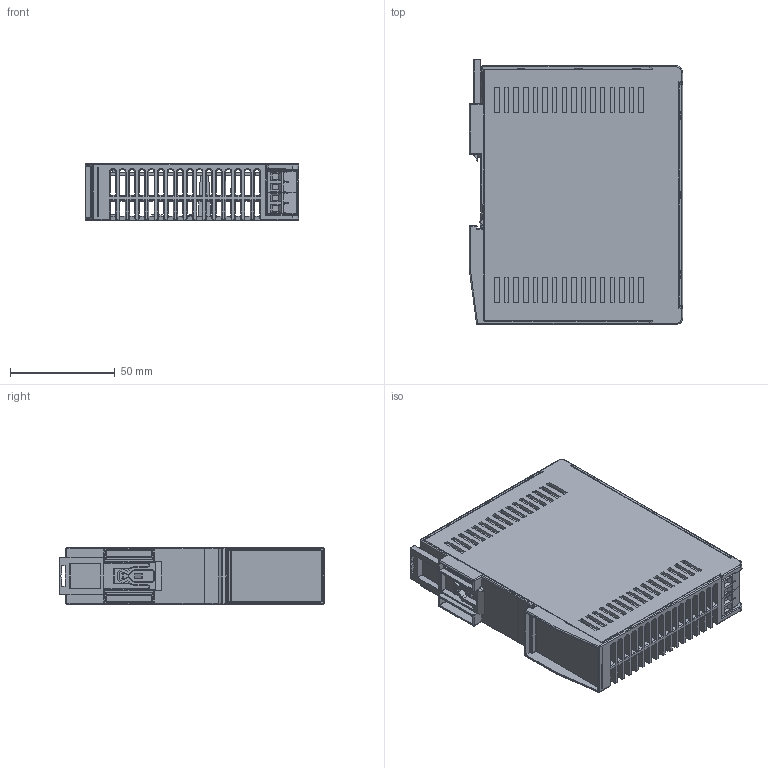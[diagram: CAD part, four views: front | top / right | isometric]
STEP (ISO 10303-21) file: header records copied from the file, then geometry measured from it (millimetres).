
FILE_DESCRIPTION (( 'STEP AP214' ), '1' );
FILE_NAME ('DPSL075W24V.STEP', '2026-04-08T11:39:34', ( '' ), ( '' ), 'SwSTEP 2.0', 'SolidWorks 2022', '' );
FILE_SCHEMA (( 'AUTOMOTIVE_DESIGN' ));
Length unit declared in the file: millimetre
Products named in the file (10): EE-PART.stp; CHASSIS_MODIFY_20191002.stp; 347_CLIP_LONG_20190322.stp; DPSL075W24V; PWB.stp; DPSL075W24V.stp; MB310-508M03Y.stp; MB310-508M02Y.stp; DRL_75W_COVER.stp; PWB-2.stp
Assembly tree (10 placements, depth 3):
  DPSL075W24V
    DPSL075W24V.stp
      CHASSIS_MODIFY_20191002.stp
      DRL_75W_COVER.stp
      MB310-508M03Y.stp
      MB310-508M02Y.stp  x2
      PWB.stp
      PWB-2.stp
      EE-PART.stp
      347_CLIP_LONG_20190322.stp
Bounding box: 102.04 x 126.62 x 27 mm (x, y, z)
Volume: 81747.4 mm3; surface area: 104420.1 mm2
Topology: 10 solids, 13 shells, 2562 faces, 6938 edges, 4357 vertices
Faces by surface type: plane 1425, cylinder 599, cone 219, torus 161, sphere 105, bspline 53
Entity records: 80341 total; most frequent: CARTESIAN_POINT 19938, ORIENTED_EDGE 12848, DIRECTION 11880, EDGE_CURVE 6424, VECTOR 4530, LINE 4530, VERTEX_POINT 4058, AXIS2_PLACEMENT_3D 3675
